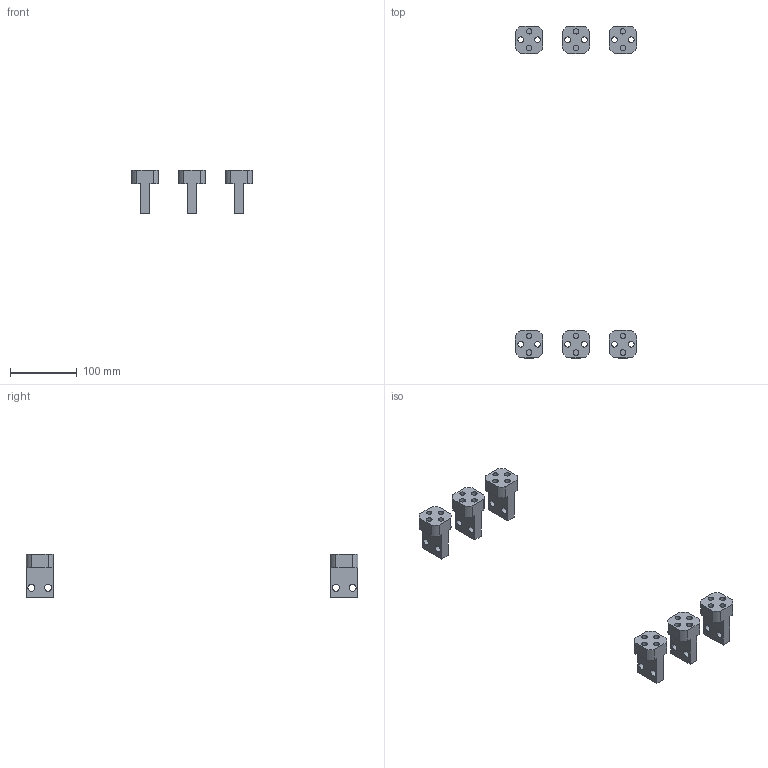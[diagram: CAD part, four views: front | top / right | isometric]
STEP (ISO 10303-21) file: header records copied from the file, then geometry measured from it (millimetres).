
FILE_DESCRIPTION (( 'STEP AP214' ), '1' );
FILE_NAME ('Êîìïëåêò çàäíåãî ïðèñîåäèíåíèÿ OptiMat D800-1600 âûäâèæíîå âåðòèêàëüíûå.STEP', '2024-01-18T10:59:21', ( '' ), ( '' ), 'SwSTEP 2.0', 'SolidWorks 2018', '' );
FILE_SCHEMA (( 'AUTOMOTIVE_DESIGN' ));
Length unit declared in the file: millimetre
Products named in the file (1): Êîìïëåêò çàäíåãî ïðèñîåäèíåíèÿ OptiMat D800-1600 âûäâèæíîå âåðòèêàëüíûå
Bounding box: 181 x 495.9 x 65 mm (x, y, z)
Volume: 293098.6 mm3; surface area: 85448.8 mm2
Topology: 6 solids, 6 shells, 168 faces, 432 edges, 288 vertices
Faces by surface type: cylinder 96, plane 72
Entity records: 7211 total; most frequent: DIRECTION 962, CARTESIAN_POINT 889, ORIENTED_EDGE 864, EDGE_CURVE 432, AXIS2_PLACEMENT_3D 361, VERTEX_POINT 288, VECTOR 240, LINE 240
